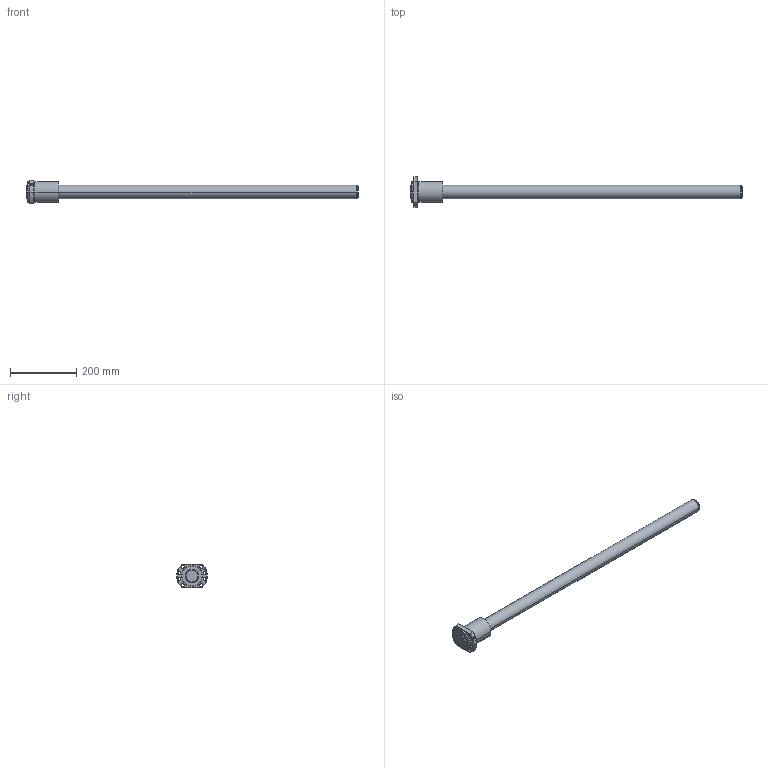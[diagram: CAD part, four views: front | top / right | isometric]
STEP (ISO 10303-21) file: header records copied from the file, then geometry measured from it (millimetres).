
FILE_DESCRIPTION( ( '' ), '1' );
FILE_NAME( 'C:/Users/v3-771-32344/Desktop/EBB STEP/EBB 4010-4 RRNone+1000L C7(896070)-ebb3.stp', '2015-08-27T13:41:13', ( '' ), ( '' ), ' ', ' ', ' ' );
FILE_SCHEMA( ( 'CONFIG_CONTROL_DESIGN' ) );
Length unit declared in the file: millimetre
Products named in the file (2): 1; 2
Bounding box: 1000 x 93 x 70 mm (x, y, z)
Volume: 1459082.3 mm3; surface area: 173163.3 mm2
Topology: 2 solids, 2 shells, 71 faces, 167 edges, 107 vertices
Faces by surface type: cylinder 40, cone 18, plane 13
Entity records: 2315 total; most frequent: CARTESIAN_POINT 497, DIRECTION 394, ORIENTED_EDGE 334, AXIS2_PLACEMENT_3D 167, EDGE_CURVE 167, VERTEX_POINT 107, EDGE_LOOP 98, CIRCLE 94
